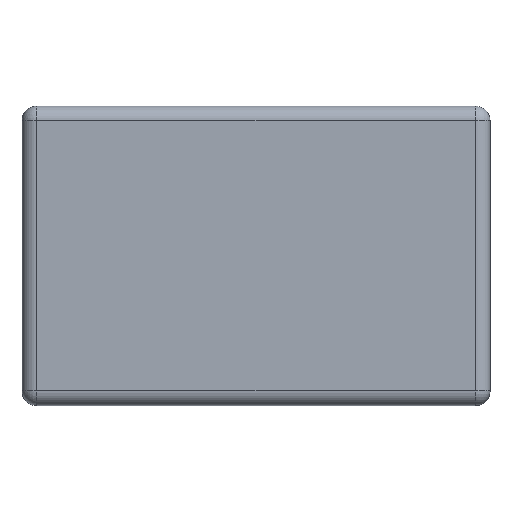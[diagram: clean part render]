
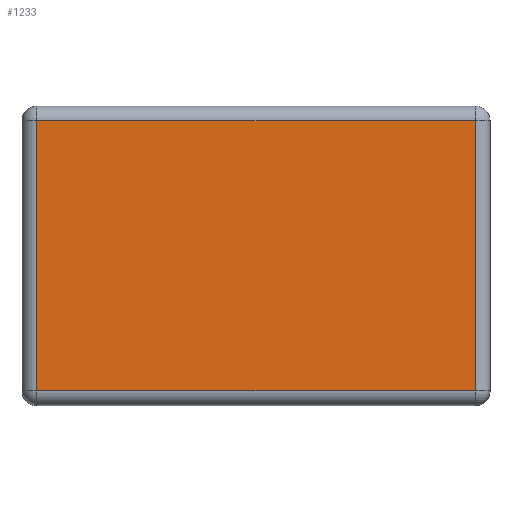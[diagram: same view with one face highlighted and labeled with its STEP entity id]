
A CAD part, top view. The second image highlights one B-rep face of the part: STEP entity #1233.
In plain terms, the highlighted planar face has unit normal (0, 0, 1).
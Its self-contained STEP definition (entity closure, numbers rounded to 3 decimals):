
#58 = PLANE ( 'NONE',  #3279 ) ;
#328 = EDGE_CURVE ( 'NONE', #1119, #1230, #1286, .T. ) ;
#341 = CARTESIAN_POINT ( 'NONE',  ( 0., 0., 10.2 ) ) ;
#381 = VECTOR ( 'NONE', #1455, 1000. ) ;
#485 = CARTESIAN_POINT ( 'NONE',  ( 30.75, 1., 10.2 ) ) ;
#561 = VECTOR ( 'NONE', #2340, 1000. ) ;
#597 = LINE ( 'NONE', #3135, #1944 ) ;
#607 = DIRECTION ( 'NONE',  ( 1., 0., 0. ) ) ;
#720 = ORIENTED_EDGE ( 'NONE', *, *, #1761, .F. ) ;
#815 = LINE ( 'NONE', #2704, #1527 ) ;
#833 = DIRECTION ( 'NONE',  ( 0., 1., 0. ) ) ;
#872 = FACE_OUTER_BOUND ( 'NONE', #1631, .T. ) ;
#978 = EDGE_CURVE ( 'NONE', #1230, #1032, #597, .T. ) ;
#1032 = VERTEX_POINT ( 'NONE', #485 ) ;
#1093 = LINE ( 'NONE', #3051, #381 ) ;
#1119 = VERTEX_POINT ( 'NONE', #1833 ) ;
#1230 = VERTEX_POINT ( 'NONE', #1936 ) ;
#1233 = ADVANCED_FACE ( 'NONE', ( #872 ), #58, .T. ) ;
#1286 = LINE ( 'NONE', #2077, #561 ) ;
#1455 = DIRECTION ( 'NONE',  ( -1., 0., 0. ) ) ;
#1527 = VECTOR ( 'NONE', #833, 1000. ) ;
#1631 = EDGE_LOOP ( 'NONE', ( #2870, #720, #3357, #2483 ) ) ;
#1761 = EDGE_CURVE ( 'NONE', #3141, #1119, #815, .T. ) ;
#1833 = CARTESIAN_POINT ( 'NONE',  ( 1., 19.32, 10.2 ) ) ;
#1936 = CARTESIAN_POINT ( 'NONE',  ( 30.75, 19.32, 10.2 ) ) ;
#1944 = VECTOR ( 'NONE', #3096, 1000. ) ;
#2077 = CARTESIAN_POINT ( 'NONE',  ( 1., 19.32, 10.2 ) ) ;
#2206 = DIRECTION ( 'NONE',  ( 0., 0., 1. ) ) ;
#2340 = DIRECTION ( 'NONE',  ( 1., 0., 0. ) ) ;
#2483 = ORIENTED_EDGE ( 'NONE', *, *, #978, .F. ) ;
#2487 = CARTESIAN_POINT ( 'NONE',  ( 1., 1., 10.2 ) ) ;
#2704 = CARTESIAN_POINT ( 'NONE',  ( 1., 1., 10.2 ) ) ;
#2870 = ORIENTED_EDGE ( 'NONE', *, *, #328, .F. ) ;
#3051 = CARTESIAN_POINT ( 'NONE',  ( 30.75, 1., 10.2 ) ) ;
#3096 = DIRECTION ( 'NONE',  ( 0., -1., 0. ) ) ;
#3135 = CARTESIAN_POINT ( 'NONE',  ( 30.75, 19.32, 10.2 ) ) ;
#3141 = VERTEX_POINT ( 'NONE', #2487 ) ;
#3204 = EDGE_CURVE ( 'NONE', #1032, #3141, #1093, .T. ) ;
#3279 = AXIS2_PLACEMENT_3D ( 'NONE', #341, #2206, #607 ) ;
#3357 = ORIENTED_EDGE ( 'NONE', *, *, #3204, .F. ) ;
